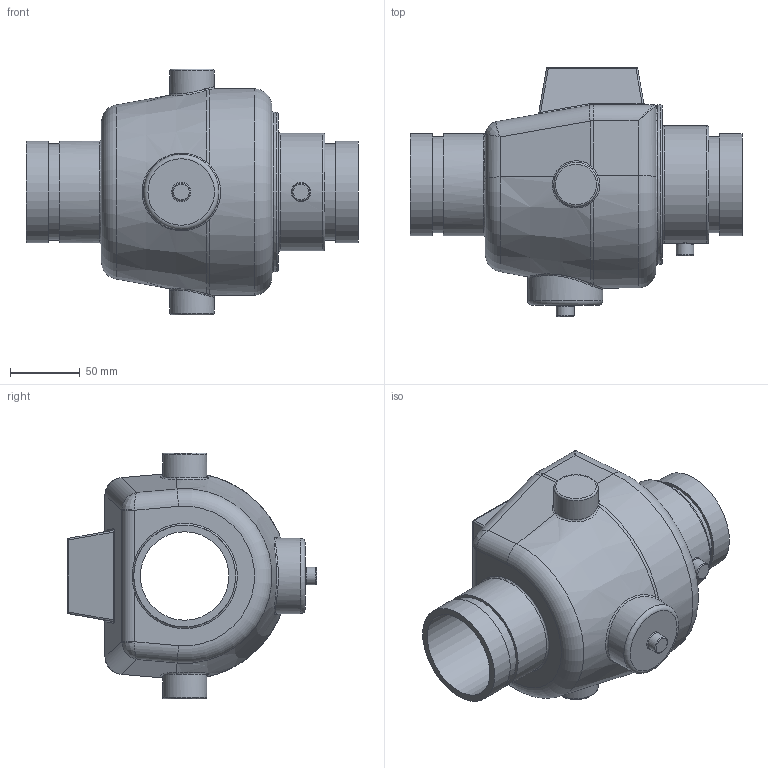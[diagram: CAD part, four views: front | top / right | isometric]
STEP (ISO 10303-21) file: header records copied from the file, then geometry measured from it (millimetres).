
FILE_DESCRIPTION(/* description */ ('VIC FIRELOCK CHECK VALVE SERIES 717-H','CAx-IF Rec.Pracs.---Representation and Presentation of Product Manufacturing Information (PMI)---4.0---2014-10-13'),/* implementation_level */ '2;1');
FILE_NAME(/* name */ 'C:\Users\Vjadhav\AppData\Roaming\Autodesk\ApplicationPlugins\Back Up\Victaulic_FP-FireLock_Valve Check_Series 717H (OGS)\Victaulic_FP-FireLock_Valve Check_Series 717H (OGS)_2.5 (65).stp',/* time_stamp */ '2020-07-20T15:23:08+06:00',/* author */ ('cps_temp'),/* organization */ ('Victaulic'),/* preprocessor_version */ 'ST-DEVELOPER v17.2',/* originating_system */ 'Autodesk Inventor 2019',/* authorisation */ '');
FILE_SCHEMA (('AP242_MANAGED_MODEL_BASED_3D_ENGINEERING_MIM_LF { 1 0 10303 442 1 1 4 }'));
Length unit declared in the file: inch
Products named in the file (1): 717H-02.5
Bounding box: 238 x 178.69 x 176.28 mm (x, y, z)
Volume: 1787271.2 mm3; surface area: 162490.5 mm2
Topology: 1 solids, 1 shells, 131 faces, 324 edges, 197 vertices
Faces by surface type: cylinder 43, bspline 40, plane 25, torus 15, sphere 6, cone 2
Full cylindrical faces by diameter (mm): 12.7 x2, 31.75 x2, 53.975 x1, 63.475 x1, 69.088 x2, 73.025 x3, 84.328 x1, 114.3 x1
Entity records: 6006 total; most frequent: CARTESIAN_POINT 2713, DIRECTION 675, ORIENTED_EDGE 642, EDGE_CURVE 321, AXIS2_PLACEMENT_3D 297, VERTEX_POINT 198, CIRCLE 156, EDGE_LOOP 139
